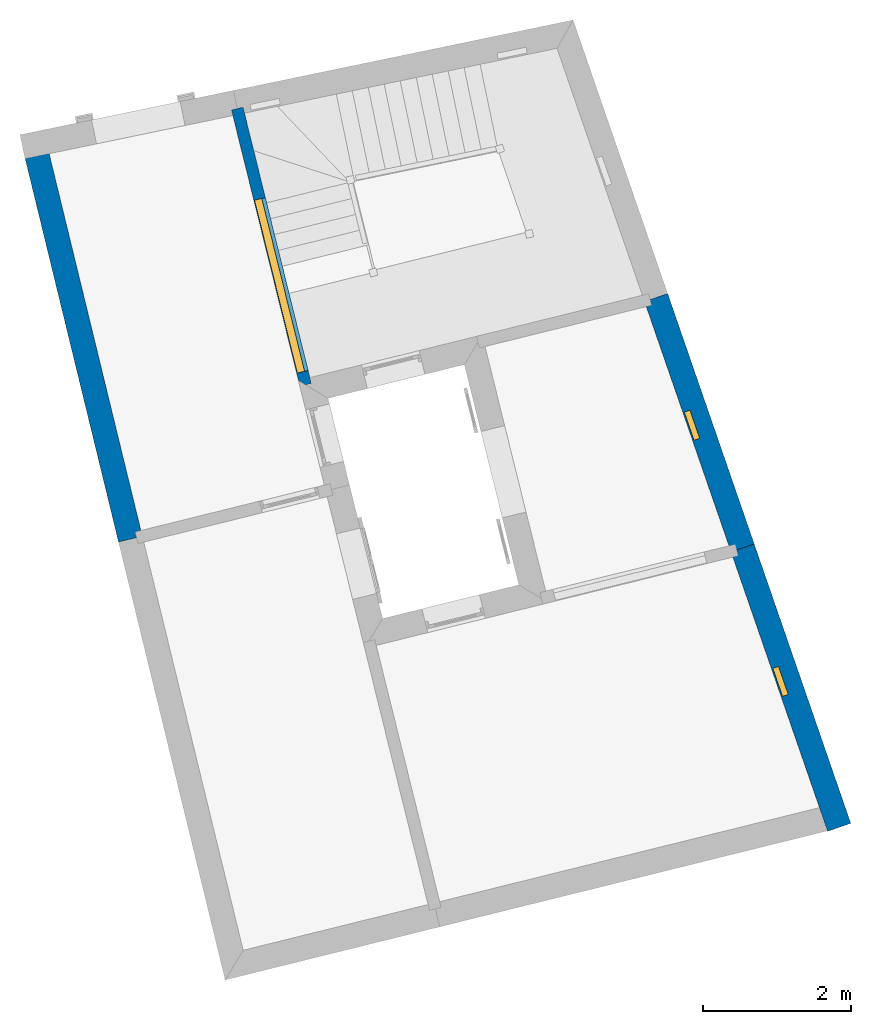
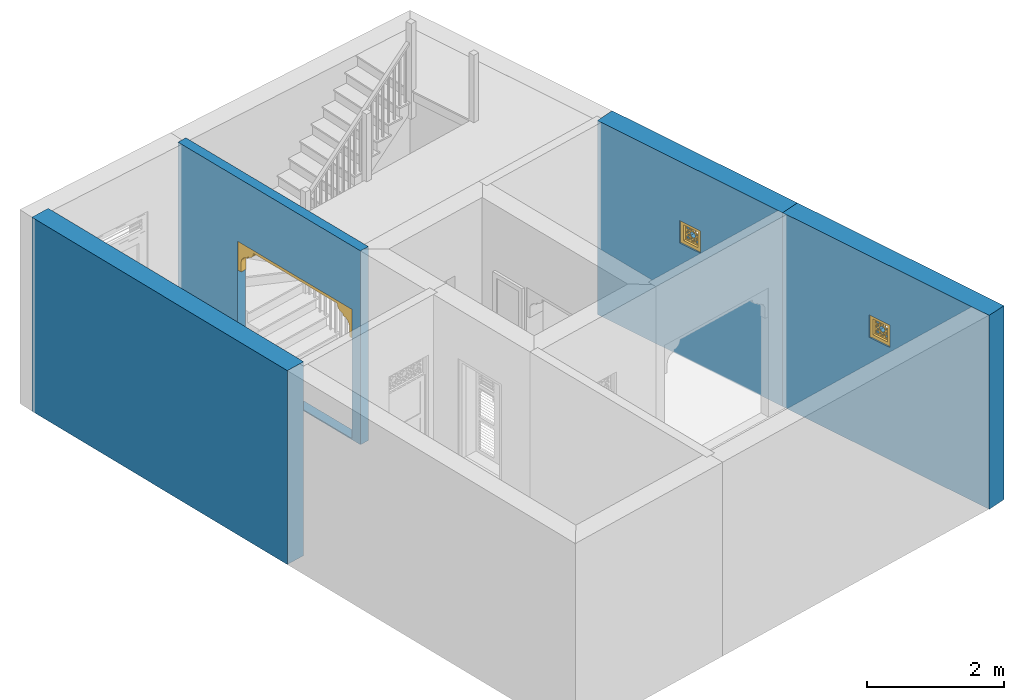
# One storey, part 8 of 10: 4 walls, 2 windows, 1 door, 3 openings.
"""IFC4 building model written with IfcOpenShell, lengths in metres."""

from ifc_helpers import new_model, si_unit, frame, origin, origin_with_axes, place, context, subcontext, project, spatial, polyline, outline, extrude, faceted_brep, source, transform, mapped, material, layer, layer_set, layer_usage, type_object, type_shapes, element, fill, save


model = new_model("IFC4")

# Units and contexts
model_context = context("Model", 3, world=origin_with_axes())
body_context = subcontext(model_context, "Body", "Model", "MODEL_VIEW")
ifc_project = project(units=[si_unit("PLANEANGLEUNIT", "RADIAN"), si_unit("MASSUNIT", "GRAM", prefix="KILO"), si_unit("FORCEUNIT", "NEWTON", prefix="KILO"), si_unit("LENGTHUNIT", "METRE"), si_unit("AREAUNIT", "SQUARE_METRE"), si_unit("VOLUMEUNIT", "CUBIC_METRE")], contexts=[model_context, model_context])

# Site, building, storey
site_placement = place(None, origin_with_axes())
site = spatial("IfcSite", under=ifc_project, at=site_placement, Name="Site plot-5", CompositionType="ELEMENT")
building_placement = place(None, origin_with_axes())
building = spatial("IfcBuilding", under=site, at=building_placement, Name="Building plot-5", CompositionType="ELEMENT")
storey_placement = place(None, origin_with_axes())
storey = spatial("IfcBuildingStorey", under=building, at=storey_placement, Name="plot-5 0", CompositionType="ELEMENT", Elevation=0.0)

# Wall, opening, window
ifc_material_1 = material(Name="Masonry")
ifc_layer_1 = layer(ifc_material_1, 0.33, ventilated=False)
ifc_layer_set_1 = layer_set([ifc_layer_1], Name="exterior_0.08_0.25")
ifc_layer_usage_1 = layer_usage(ifc_layer_set_1, "AXIS2", "POSITIVE", -0.25)
wall_type_1 = type_object("IfcWallType", Name="exterior_0.08_0.25", PredefinedType="SOLIDWALL", material=ifc_layer_set_1)
wall_1_placement = place(storey_placement, frame((25.1708263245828, 21.6823609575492, 0.0), z_axis=(0.0, 0.0, 1.0), x_axis=(-0.326708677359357, 0.945125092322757, 0.0)))
wall_1 = element("IfcWall", 1, at=wall_1_placement, inside=storey, type_object=wall_type_1, material=ifc_layer_usage_1, Name="exterior", context=body_context, shape_type="SweptSolid", body=[
    extrude(outline(polyline([(-0.250000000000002, 0.0799999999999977), (-0.249999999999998, -0.250000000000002), (3.73477604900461, -0.25), (3.7347760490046, 0.0799999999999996), (-0.250000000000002, 0.0799999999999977)])), origin_with_axes(), (0.0, 0.0, 1.0), 3.45),
])
opening_1_placement = place(wall_1_placement, frame((1.6673880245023, 0.0, 2.0)))
opening_1 = element("IfcOpeningElement", 2, at=opening_1_placement, cuts=wall_1, Name="My Opening", ObjectType="Opening", context=body_context, shape_type="SweptSolid", body=[
    extrude(outline(polyline([(0.0, -0.269999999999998), (0.399999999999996, -0.269999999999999), (0.4, 1.1), (3.99680288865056e-15, 1.1), (0.0, -0.269999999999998)])), origin_with_axes(), (0.0, 0.0, 1.0), 0.4),
])
window_type = type_object("IfcWindowType", Name="barred_window", PartitioningType="DOUBLE_PANEL_HORIZONTAL", PredefinedType="NOTDEFINED")
shared_shape_1 = source(origin(), body_context, "Body", "Brep", [
    faceted_brep([(0.4, 0.25, 0.4), (0.0, 0.25, 0.4), (0.06, 0.25, 0.34), (0.34, 0.25, 0.34), (0.06, 0.33, 0.34), (0.34, 0.33, 0.34), (0.34, 0.25, 0.06), (0.4, 0.25, 0.0), (0.4, 0.33, 0.4), (0.0, 0.33, 0.4), (0.0, 0.25, 0.0), (0.06, 0.25, 0.06), (0.06, 0.33, 0.06), (0.34, 0.33, 0.06), (0.4, 0.33, 0.0), (0.0, 0.33, 0.0), (0.136152, 0.28, 0.08), (0.08, 0.28, 0.08), (0.06, 0.28, 0.06), (0.136152, 0.28, 0.06), (0.136152, 0.29, 0.08), (0.08, 0.29, 0.08), (0.06, 0.28, 0.136152), (0.08, 0.28, 0.136152), (0.06, 0.29, 0.06), (0.136152, 0.29, 0.06), (0.170294, 0.28, 0.08), (0.170294, 0.28, 0.06), (0.136152, 0.28, 0.136152), (0.136152, 0.29, 0.136152), (0.08, 0.29, 0.136152), (0.06, 0.29, 0.136152), (0.08, 0.28, 0.170294), (0.06, 0.28, 0.170294), (0.170294, 0.29, 0.06), (0.229706, 0.28, 0.08), (0.229706, 0.28, 0.06), (0.156152, 0.28, 0.094142), (0.156152, 0.28, 0.136152), (0.185858, 0.28, 0.123848), (0.185858, 0.29, 0.123848), (0.156152, 0.29, 0.094142), (0.156152, 0.29, 0.136152), (0.229706, 0.29, 0.08), (0.170294, 0.29, 0.08), (0.2, 0.28, 0.109706), (0.2, 0.29, 0.109706), (0.06, 0.29, 0.170294), (0.094142, 0.28, 0.156152), (0.08, 0.28, 0.229706), (0.06, 0.28, 0.229706), (0.229706, 0.29, 0.06), (0.263848, 0.28, 0.08), (0.263848, 0.28, 0.06), (0.156152, 0.28, 0.156152), (0.136152, 0.28, 0.156152), (0.173553, 0.28, 0.136152), (0.173553, 0.29, 0.136152), (0.156152, 0.29, 0.156152), (0.136152, 0.29, 0.156152), (0.094142, 0.29, 0.156152), (0.08, 0.29, 0.170294), (0.06, 0.29, 0.229706), (0.123848, 0.28, 0.185858), (0.109706, 0.28, 0.2), (0.08, 0.29, 0.229706), (0.08, 0.28, 0.263848), (0.06, 0.28, 0.263848), (0.263848, 0.29, 0.06), (0.2, 0.28, 0.13799), (0.214142, 0.28, 0.123848), (0.34, 0.28, 0.06), (0.32, 0.28, 0.08), (0.181838, 0.28, 0.156152), (0.136152, 0.28, 0.173553), (0.156152, 0.28, 0.181838), (0.181838, 0.29, 0.156152), (0.2, 0.29, 0.13799), (0.214142, 0.29, 0.123848), (0.136152, 0.29, 0.173553), (0.156152, 0.29, 0.181838), (0.243848, 0.28, 0.094142), (0.243848, 0.29, 0.094142), (0.263848, 0.28, 0.136152), (0.263848, 0.29, 0.08), (0.263848, 0.29, 0.136152), (0.32, 0.29, 0.08), (0.243848, 0.28, 0.136152), (0.243848, 0.29, 0.136152), (0.06, 0.29, 0.263848), (0.123848, 0.29, 0.185858), (0.13799, 0.28, 0.2), (0.123848, 0.28, 0.214142), (0.109706, 0.29, 0.2), (0.094142, 0.28, 0.243848), (0.08, 0.28, 0.32), (0.06, 0.28, 0.34), (0.34, 0.29, 0.06), (0.218162, 0.28, 0.156152), (0.226447, 0.28, 0.136152), (0.34, 0.28, 0.229706), (0.32, 0.28, 0.229706), (0.32, 0.28, 0.170294), (0.32, 0.28, 0.136152), (0.218162, 0.29, 0.156152), (0.226447, 0.29, 0.136152), (0.13799, 0.29, 0.2), (0.32, 0.29, 0.136152), (0.08, 0.29, 0.263848), (0.06, 0.29, 0.34), (0.136152, 0.28, 0.226447), (0.156152, 0.28, 0.218162), (0.094142, 0.29, 0.243848), (0.123848, 0.29, 0.214142), (0.136152, 0.28, 0.243848), (0.136152, 0.28, 0.263848), (0.08, 0.29, 0.32), (0.136152, 0.28, 0.34), (0.136152, 0.28, 0.32), (0.34, 0.29, 0.229706), (0.243848, 0.28, 0.156152), (0.263848, 0.28, 0.156152), (0.34, 0.28, 0.263848), (0.32, 0.28, 0.263848), (0.32, 0.29, 0.229706), (0.32, 0.29, 0.170294), (0.290294, 0.28, 0.2), (0.276152, 0.28, 0.185858), (0.305858, 0.28, 0.156152), (0.243848, 0.29, 0.156152), (0.263848, 0.29, 0.156152), (0.305858, 0.29, 0.156152), (0.276152, 0.29, 0.185858), (0.290294, 0.29, 0.2), (0.136152, 0.29, 0.34), (0.136152, 0.29, 0.226447), (0.156152, 0.29, 0.218162), (0.156152, 0.28, 0.243848), (0.136152, 0.29, 0.243848), (0.156152, 0.28, 0.263848), (0.136152, 0.29, 0.263848), (0.136152, 0.29, 0.32), (0.170294, 0.28, 0.32), (0.170294, 0.28, 0.34), (0.34, 0.29, 0.263848), (0.243848, 0.28, 0.181838), (0.263848, 0.28, 0.173553), (0.34, 0.28, 0.34), (0.32, 0.28, 0.32), (0.305858, 0.28, 0.243848), (0.276152, 0.28, 0.214142), (0.26201, 0.28, 0.2), (0.243848, 0.29, 0.181838), (0.263848, 0.29, 0.173553), (0.26201, 0.29, 0.2), (0.276152, 0.29, 0.214142), (0.32, 0.29, 0.263848), (0.170294, 0.29, 0.34), (0.156152, 0.29, 0.243848), (0.173553, 0.28, 0.263848), (0.181838, 0.28, 0.243848), (0.156152, 0.28, 0.305858), (0.229706, 0.28, 0.32), (0.229706, 0.28, 0.34), (0.34, 0.29, 0.34), (0.263848, 0.28, 0.34), (0.263848, 0.28, 0.32), (0.32, 0.29, 0.32), (0.263848, 0.28, 0.263848), (0.263848, 0.28, 0.243848), (0.305858, 0.29, 0.243848), (0.263848, 0.28, 0.226447), (0.243848, 0.28, 0.218162), (0.243848, 0.29, 0.218162), (0.263848, 0.29, 0.226447), (0.156152, 0.29, 0.263848), (0.170294, 0.29, 0.32), (0.229706, 0.29, 0.34), (0.181838, 0.29, 0.243848), (0.173553, 0.29, 0.263848), (0.185858, 0.28, 0.276152), (0.2, 0.28, 0.26201), (0.156152, 0.29, 0.305858), (0.229706, 0.29, 0.32), (0.263848, 0.29, 0.34), (0.263848, 0.29, 0.32), (0.263848, 0.29, 0.263848), (0.243848, 0.28, 0.243848), (0.243848, 0.28, 0.263848), (0.263848, 0.29, 0.243848), (0.243848, 0.29, 0.243848), (0.2, 0.29, 0.26201), (0.185858, 0.29, 0.276152), (0.214142, 0.28, 0.276152), (0.218162, 0.28, 0.243848), (0.226447, 0.28, 0.263848), (0.243848, 0.28, 0.305858), (0.2, 0.28, 0.290294), (0.2, 0.29, 0.290294), (0.243848, 0.29, 0.263848), (0.218162, 0.29, 0.243848), (0.214142, 0.29, 0.276152), (0.226447, 0.29, 0.263848), (0.243848, 0.29, 0.305858)], [[[0, 1, 2, 3]], [[3, 2, 4, 5]], [[3, 6, 7, 0]], [[1, 0, 8, 9]], [[1, 10, 11, 2]], [[2, 11, 12, 4]], [[9, 8, 5, 4]], [[6, 3, 5, 13]], [[6, 11, 10, 7]], [[0, 7, 14, 8]], [[10, 1, 9, 15]], [[11, 6, 13, 12]], [[4, 12, 15, 9]], [[8, 14, 13, 5]], [[7, 10, 15, 14]], [[12, 13, 14, 15]], [[16, 17, 18, 19]], [[17, 16, 20, 21]], [[22, 18, 17, 23]], [[19, 18, 24, 25]], [[26, 16, 19, 27]], [[16, 28, 29, 20]], [[21, 20, 25, 24]], [[23, 17, 21, 30]], [[18, 22, 31, 24]], [[23, 32, 33, 22]], [[27, 19, 25, 34]], [[35, 26, 27, 36]], [[28, 16, 37, 38]], [[37, 39, 40, 41]], [[38, 37, 41, 42]], [[20, 29, 42, 41]], [[26, 35, 43, 44]], [[45, 26, 44, 46]], [[20, 44, 34, 25]], [[28, 23, 30, 29]], [[24, 31, 30, 21]], [[22, 33, 47, 31]], [[48, 32, 23]], [[32, 49, 50, 33]], [[36, 27, 34, 51]], [[39, 37, 26, 45]], [[52, 35, 36, 53]], [[38, 54, 55, 28]], [[39, 56, 57, 40]], [[41, 40, 46, 44]], [[56, 38, 42, 57]], [[58, 42, 29, 59]], [[35, 45, 46, 43]], [[44, 43, 51, 34]], [[23, 28, 55, 48]], [[29, 30, 60, 59]], [[61, 30, 31, 47]], [[33, 50, 62, 47]], [[48, 63, 64, 32]], [[49, 32, 61, 65]], [[49, 66, 67, 50]], [[53, 36, 51, 68]], [[69, 39, 45, 70]], [[53, 71, 72, 52]], [[73, 54, 38, 56]], [[74, 55, 54, 75]], [[56, 39, 69, 73]], [[40, 57, 76, 77]], [[40, 77, 78, 46]], [[58, 76, 57, 42]], [[59, 79, 80, 58]], [[45, 35, 81, 70]], [[43, 46, 78, 82]], [[83, 52, 84, 85]], [[82, 84, 43]], [[52, 72, 86, 84]], [[43, 84, 68, 51]], [[44, 20, 41]], [[70, 81, 82, 78]], [[81, 87, 88, 82]], [[48, 55, 59, 60]], [[61, 60, 30]], [[65, 61, 47, 62]], [[50, 67, 89, 62]], [[63, 48, 60, 90]], [[63, 91, 92, 64]], [[32, 64, 93, 61]], [[64, 49, 65, 93]], [[94, 66, 49]], [[66, 95, 96, 67]], [[71, 53, 68, 97]], [[98, 69, 70, 99]], [[81, 52, 83, 87]], [[72, 71, 100]], [[100, 101, 102]], [[103, 72, 100]], [[100, 102, 103]], [[54, 73, 76, 58]], [[55, 74, 79, 59]], [[75, 54, 58, 80]], [[63, 74, 75, 91]], [[73, 69, 77, 76]], [[77, 104, 105, 78]], [[79, 90, 106, 80]], [[84, 82, 88, 85]], [[103, 83, 85, 107]], [[72, 103, 107, 86]], [[97, 68, 84, 86]], [[99, 70, 78, 105]], [[87, 99, 105, 88]], [[90, 60, 61, 93]], [[108, 65, 62, 89]], [[67, 96, 109, 89]], [[74, 63, 90, 79]], [[110, 92, 91, 111]], [[49, 64, 92, 94]], [[93, 65, 112, 113]], [[94, 114, 115, 66]], [[95, 66, 108, 116]], [[117, 96, 95, 118]], [[100, 71, 97, 119]], [[69, 98, 104, 77]], [[99, 87, 120, 98]], [[87, 83, 121, 120]], [[101, 100, 122, 123]], [[102, 101, 124, 125]], [[121, 83, 103]], [[103, 102, 126]], [[126, 127, 128]], [[128, 121, 103]], [[103, 126, 128]], [[91, 75, 80, 106]], [[88, 105, 104, 129]], [[106, 90, 93, 113]], [[85, 88, 129, 130]], [[107, 85, 130]], [[131, 132, 133]], [[107, 130, 131]], [[133, 125, 107]], [[107, 131, 133]], [[124, 119, 97]], [[97, 86, 107]], [[107, 125, 124]], [[97, 107, 124]], [[108, 112, 65]], [[116, 108, 89, 109]], [[96, 117, 134, 109]], [[92, 110, 135, 113]], [[111, 91, 106, 136]], [[114, 110, 111, 137]], [[94, 92, 113, 112]], [[114, 94, 112, 138]], [[114, 137, 139, 115]], [[66, 115, 140, 108]], [[118, 95, 116, 141]], [[118, 142, 143, 117]], [[122, 100, 119, 144]], [[98, 120, 129, 104]], [[145, 120, 121, 146]], [[122, 147, 148, 123]], [[123, 149, 101]], [[101, 126, 133, 124]], [[126, 102, 125, 133]], [[127, 126, 150, 151]], [[128, 127, 132, 131]], [[121, 128, 131, 130]], [[113, 135, 136, 106]], [[129, 152, 153, 130]], [[133, 132, 154, 155]], [[119, 124, 156, 144]], [[138, 112, 108, 140]], [[109, 134, 141, 116]], [[117, 143, 157, 134]], [[110, 114, 138, 135]], [[137, 111, 136, 158]], [[159, 139, 137, 160]], [[118, 115, 139, 161]], [[115, 118, 141, 140]], [[161, 142, 118]], [[162, 163, 143, 142]], [[147, 122, 144, 164]], [[120, 145, 152, 129]], [[146, 121, 130, 153]], [[146, 127, 151, 145]], [[147, 165, 166, 148]], [[123, 148, 167, 156]], [[149, 123, 168, 169]], [[149, 150, 126, 101]], [[155, 170, 124, 133]], [[151, 150, 171, 172]], [[127, 146, 153, 132]], [[135, 138, 158, 136]], [[132, 153, 152, 154]], [[155, 154, 173, 174]], [[170, 156, 124]], [[164, 144, 156, 167]], [[158, 138, 140, 175]], [[176, 141, 134, 157]], [[143, 163, 177, 157]], [[160, 137, 158, 178]], [[139, 159, 179, 175]], [[180, 159, 160, 181]], [[161, 139, 175, 182]], [[140, 141, 182, 175]], [[166, 165, 163, 162]], [[162, 142, 176, 183]], [[165, 147, 164, 184]], [[145, 151, 154, 152]], [[148, 166, 185, 167]], [[156, 186, 168, 123]], [[187, 169, 168, 188]], [[149, 169, 189, 170]], [[150, 149, 170, 155]], [[171, 150, 155, 174]], [[171, 169, 187, 172]], [[151, 172, 173, 154]], [[189, 174, 173, 190]], [[156, 170, 189, 186]], [[184, 164, 167, 185]], [[175, 179, 178, 158]], [[176, 182, 141]], [[177, 183, 176, 157]], [[163, 165, 184, 177]], [[181, 160, 178, 191]], [[159, 180, 192, 179]], [[180, 161, 182, 192]], [[193, 181, 194, 195]], [[196, 162, 197, 193]], [[180, 197, 142, 161]], [[197, 180, 181, 193]], [[142, 197, 198, 176]], [[162, 196, 166]], [[35, 52, 81]], [[197, 162, 183, 198]], [[185, 166, 168, 186]], [[196, 188, 168, 166]], [[187, 188, 195, 194]], [[169, 171, 174, 189]], [[172, 187, 190, 173]], [[189, 190, 199, 186]], [[184, 185, 183, 177]], [[179, 192, 191, 178]], [[176, 198, 192, 182]], [[194, 181, 191, 200]], [[191, 192, 198, 201]], [[26, 37, 16]], [[193, 195, 202, 201]], [[196, 193, 201, 203]], [[191, 201, 202, 200]], [[183, 203, 201, 198]], [[188, 196, 203, 199]], [[203, 183, 185]], [[199, 203, 185, 186]], [[195, 188, 199, 202]], [[187, 194, 200, 190]], [[199, 190, 200, 202]]]),
])
type_shapes(window_type, [shared_shape_1])
window_1_placement = place(storey_placement, frame((24.88125996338, 23.3464625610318, 2.0), z_axis=(0.0, 0.0, 1.0), x_axis=(-0.13068347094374, 0.3780500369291, 0.0)))
window_1 = element("IfcWindow", 3, at=window_1_placement, inside=storey, type_object=window_type, Name="living street window", OverallHeight=0.4, OverallWidth=0.4, context=body_context, shape_type="MappedRepresentation", body=[
    mapped(shared_shape_1, transform((0.0, 0.0, 0.0), scale=1.0)),
])
fill(opening_1, window_1)

wall_2_placement = place(storey_placement, frame((23.9506425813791, 25.2121915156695, 0.0), z_axis=(0.0, 0.0, 1.0), x_axis=(-0.32670867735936, 0.945125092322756, 0.0)))
wall_2 = element("IfcWall", 4, at=wall_2_placement, inside=storey, type_object=wall_type_1, material=ifc_layer_usage_1, Name="exterior", context=body_context, shape_type="SweptSolid", body=[
    extrude(outline(polyline([(-1.70040397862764e-15, 0.0799999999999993), (8.47975353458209e-16, -0.25), (3.57336181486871, -0.25), (3.57336181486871, 0.0799999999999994), (-1.70040397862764e-15, 0.0799999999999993)])), origin_with_axes(), (0.0, 0.0, 1.0), 3.45),
])
opening_2_placement = place(wall_2_placement, frame((1.58668090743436, 0.0, 2.0)))
opening_2 = element("IfcOpeningElement", 5, at=opening_2_placement, cuts=wall_2, Name="My Opening", ObjectType="Opening", context=body_context, shape_type="SweptSolid", body=[
    extrude(outline(polyline([(0.0, -0.269999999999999), (0.399999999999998, -0.269999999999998), (0.399999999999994, 1.1), (-3.33066907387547e-15, 1.1), (0.0, -0.269999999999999)])), origin_with_axes(), (0.0, 0.0, 1.0), 0.4),
])
window_2_placement = place(storey_placement, frame((23.687443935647, 26.8000147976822, 2.0), z_axis=(0.0, 0.0, 1.0), x_axis=(-0.130683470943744, 0.3780500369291, 0.0)))
window_2 = element("IfcWindow", 6, at=window_2_placement, inside=storey, type_object=window_type, Name="kitchen street window", OverallHeight=0.4, OverallWidth=0.4, context=body_context, shape_type="MappedRepresentation", body=[
    mapped(shared_shape_1, transform((0.0, 0.0, 0.0), scale=1.0)),
])
fill(opening_2, window_2)

# Wall
ifc_material_2 = material(Name="Masonry")
ifc_layer_2 = layer(ifc_material_2, 0.33, ventilated=False)
ifc_layer_set_2 = layer_set([ifc_layer_2], Name="party_0.08_0.25")
ifc_layer_usage_2 = layer_usage(ifc_layer_set_2, "AXIS2", "POSITIVE", -0.25)
wall_type_2 = type_object("IfcWallType", Name="party_0.08_0.25", PredefinedType="SOLIDWALL", material=ifc_layer_set_2)
wall_3_placement = place(storey_placement, frame((14.5840904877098, 30.6170061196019, 0.0), z_axis=(0.0, 0.0, 1.0), x_axis=(0.236608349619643, -0.971605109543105, 0.0)))
element("IfcWall", 7, at=wall_3_placement, inside=storey, type_object=wall_type_2, material=ifc_layer_usage_2, Name="party", context=body_context, shape_type="SweptSolid", body=[
    extrude(outline(polyline([(-5.10244896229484e-16, 0.0800000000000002), (3.98164954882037e-16, -0.25), (5.3916903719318, -0.25), (5.3916903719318, 0.0800000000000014), (-5.10244896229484e-16, 0.0800000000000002)])), origin_with_axes(), (0.0, 0.0, 1.0), 3.45),
])

# Wall, opening, door
ifc_material_3 = material(Name="Masonry")
ifc_layer_3 = layer(ifc_material_3, 0.16, ventilated=False)
ifc_layer_set_3 = layer_set([ifc_layer_3], Name="interior_0.08_0.08")
ifc_layer_usage_3 = layer_usage(ifc_layer_set_3, "AXIS2", "POSITIVE", -0.08)
wall_type_3 = type_object("IfcWallType", Name="interior_0.08_0.08", PredefinedType="SOLIDWALL", material=ifc_layer_set_3)
wall_4_placement = place(storey_placement, frame((17.2174370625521, 31.1632786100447, 0.0), z_axis=(0.0, 0.0, 1.0), x_axis=(0.240250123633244, -0.970711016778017, 0.0)))
wall_4 = element("IfcWall", 8, at=wall_4_placement, inside=storey, type_object=wall_type_3, material=ifc_layer_usage_3, Name="interior", context=body_context, shape_type="SweptSolid", body=[
    extrude(outline(polyline([(2.53588544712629e-16, 0.0800000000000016), (-2.27858582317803e-16, -0.0800000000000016), (3.83560266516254, -0.0800000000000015), (3.83560266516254, 0.0800000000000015), (2.53588544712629e-16, 0.0800000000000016)])), origin_with_axes(), (0.0, 0.0, 1.0), 3.45),
])
opening_3_placement = place(wall_4_placement, frame((1.25560266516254, 0.0, 0.02)))
opening_3 = element("IfcOpeningElement", 9, at=opening_3_placement, cuts=wall_4, Name="My Opening", ObjectType="Opening", context=body_context, shape_type="SweptSolid", body=[
    extrude(outline(polyline([(0.0, -0.1), (2.4, -0.100000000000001), (2.4, 1.1), (-1.99840144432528e-15, 1.1), (0.0, -0.1)])), origin_with_axes(), (0.0, 0.0, 1.0), 2.3),
])
door_type = type_object("IfcDoorType", Name="arch-2400x2300-thin", OperationType="SINGLE_SWING_LEFT", PredefinedType="NOTDEFINED")
shared_shape_2 = source(origin(), body_context, "Body", "Brep", [
    faceted_brep([(2.4, 0.03, 1.78), (2.4, 0.03, 1.95), (2.34, 0.03, 1.95), (2.34, 0.03, 1.78), (2.34, 0.13, 1.95), (2.34, 0.13, 1.78), (2.4, 0.03, 2.12), (2.329, 0.03, 2.004), (2.4, 0.13, 1.78), (2.4, 0.13, 1.95), (2.329, 0.13, 2.004), (2.299, 0.03, 2.049), (2.4, 0.13, 2.12), (2.299, 0.13, 2.049), (2.254, 0.03, 2.079), (2.4, 0.13, 2.29), (2.4, 0.03, 2.29), (2.254, 0.13, 2.079), (2.2, 0.03, 2.09), (2.2, 0.03, 2.12), (2.154, 0.03, 2.129), (2.08, 0.13, 2.29), (2.08, 0.03, 2.29), (2.2, 0.13, 2.12), (2.154, 0.13, 2.129), (2.2, 0.13, 2.09), (2.115, 0.03, 2.155), (2.089, 0.13, 2.194), (2.08, 0.13, 2.24), (2.08, 0.03, 2.24), (2.089, 0.03, 2.194), (2.115, 0.13, 2.155), (0.06, 0.03, 1.78), (0.06, 0.03, 1.95), (0.0, 0.03, 1.95), (0.0, 0.03, 1.78), (0.06, 0.13, 1.78), (0.06, 0.13, 1.95), (0.071, 0.03, 2.004), (0.0, 0.03, 2.12), (0.0, 0.13, 1.95), (0.0, 0.13, 1.78), (0.071, 0.13, 2.004), (0.101, 0.03, 2.049), (0.0, 0.13, 2.12), (0.101, 0.13, 2.049), (0.146, 0.03, 2.079), (0.0, 0.03, 2.29), (0.0, 0.13, 2.29), (0.146, 0.13, 2.079), (0.2, 0.03, 2.12), (0.2, 0.03, 2.09), (0.246, 0.03, 2.129), (0.32, 0.03, 2.29), (0.32, 0.13, 2.29), (0.246, 0.13, 2.129), (0.2, 0.13, 2.12), (0.2, 0.13, 2.09), (0.285, 0.03, 2.155), (0.32, 0.13, 2.24), (0.311, 0.13, 2.194), (0.311, 0.03, 2.194), (0.32, 0.03, 2.24), (0.285, 0.13, 2.155)], [[[0, 1, 2, 3]], [[4, 5, 3, 2]], [[1, 6, 7, 2]], [[1, 0, 8, 9]], [[5, 8, 0, 3]], [[5, 4, 9, 8]], [[10, 4, 2, 7]], [[6, 11, 7]], [[6, 1, 9, 12]], [[4, 10, 12, 9]], [[13, 10, 7, 11]], [[6, 14, 11]], [[12, 15, 16, 6]], [[12, 10, 13]], [[17, 13, 11, 14]], [[18, 14, 6, 19]], [[6, 16, 20, 19]], [[16, 15, 21, 22]], [[23, 24, 15, 12]], [[12, 13, 17]], [[25, 17, 14, 18]], [[23, 25, 18, 19]], [[24, 23, 19, 20]], [[16, 26, 20]], [[15, 27, 28, 21]], [[16, 22, 29, 30]], [[31, 15, 24]], [[23, 12, 17, 25]], [[31, 24, 20, 26]], [[16, 30, 26]], [[28, 27, 30, 29]], [[27, 15, 31]], [[27, 31, 26, 30]], [[32, 33, 34, 35]], [[33, 32, 36, 37]], [[33, 38, 39, 34]], [[35, 34, 40, 41]], [[32, 35, 41, 36]], [[41, 40, 37, 36]], [[38, 33, 37, 42]], [[38, 43, 39]], [[44, 40, 34, 39]], [[40, 44, 42, 37]], [[43, 38, 42, 45]], [[43, 46, 39]], [[39, 47, 48, 44]], [[45, 42, 44]], [[46, 43, 45, 49]], [[50, 39, 46, 51]], [[50, 52, 47, 39]], [[53, 54, 48, 47]], [[44, 48, 55, 56]], [[49, 45, 44]], [[51, 46, 49, 57]], [[50, 51, 57, 56]], [[52, 50, 56, 55]], [[52, 58, 47]], [[54, 59, 60, 48]], [[61, 62, 53, 47]], [[55, 48, 63]], [[57, 49, 44, 56]], [[58, 52, 55, 63]], [[58, 61, 47]], [[62, 61, 60, 59]], [[63, 48, 60]], [[61, 58, 63, 60]], [[62, 59, 28, 29]], [[59, 54, 21, 28]], [[53, 62, 29, 22]], [[54, 53, 22, 21]]]),
])
type_shapes(door_type, [shared_shape_2])
door_placement = place(storey_placement, frame((17.4220246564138, 29.9204262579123, 0.02), z_axis=(0.0, 0.0, 1.0), x_axis=(0.576600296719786, -2.32970644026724, 0.0)))
door = element("IfcDoor", 10, at=door_placement, inside=storey, type_object=door_type, Name="circulation inside door", OverallHeight=2.3, OverallWidth=2.4, context=body_context, shape_type="MappedRepresentation", body=[
    mapped(shared_shape_2, transform((0.0, 0.0, 0.0), scale=1.0)),
])
fill(opening_3, door)

save(model, "model.ifc")
